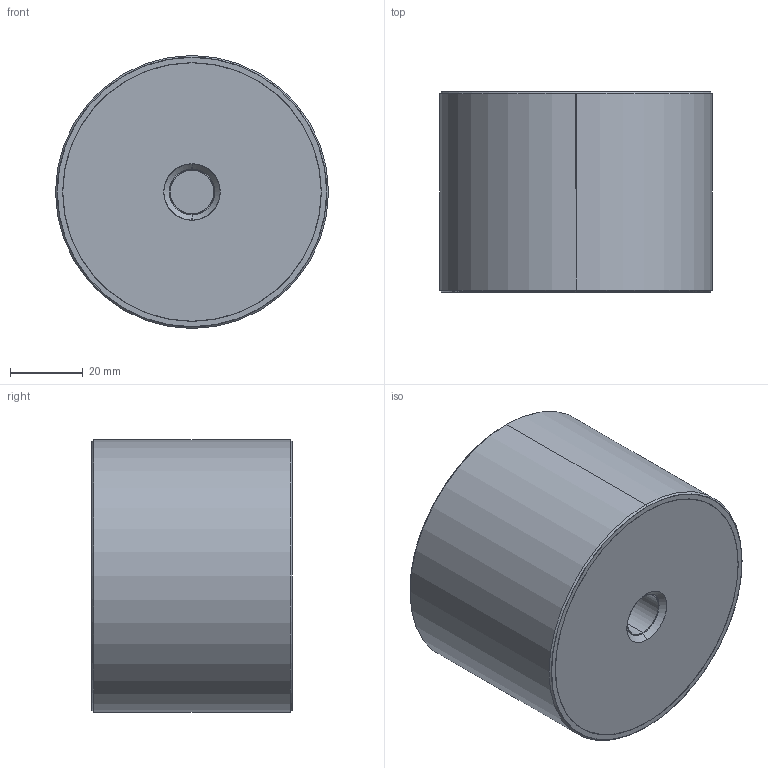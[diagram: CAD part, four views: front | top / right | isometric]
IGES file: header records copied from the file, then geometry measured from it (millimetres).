
Start section: SolidWorks IGES file using analytic representation for surfaces
Global section: file name: E:\WIXROYD 20180701\61080_v2\61080_v2_20180409_IGES\61080.W0753.igs; native system: SolidWorks 2017; preprocessor: SolidWorks 2017; author: liam_; date: 180716.214653; units: millimetre
Bounding box: 75 x 55 x 75 mm (x, y, z)
Surface area: 39186.7 mm2 (no closed solid volume)
Topology: 0 solids, 0 shells, 32 faces, 984 edges, 984 vertices
Faces by surface type: revolution 22, bspline 10
